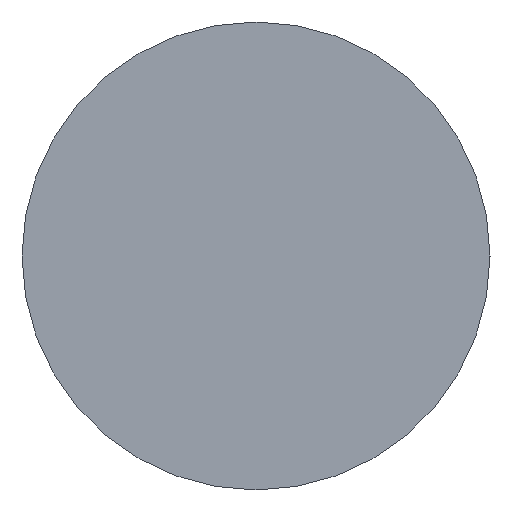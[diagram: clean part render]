
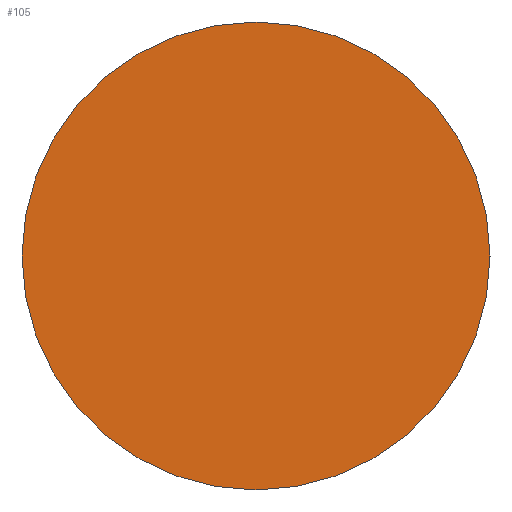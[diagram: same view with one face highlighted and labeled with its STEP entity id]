
A CAD part, left-side view. The second image highlights one B-rep face of the part: STEP entity #105.
In plain terms, the highlighted planar face has unit normal (-1, 0, 0).
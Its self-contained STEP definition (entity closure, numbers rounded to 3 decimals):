
#22 = VERTEX_POINT('',#23);
#23 = CARTESIAN_POINT('',(-44.,61.5,259.));
#32 = CYLINDRICAL_SURFACE('',#33,6.5);
#33 = AXIS2_PLACEMENT_3D('',#34,#35,#36);
#34 = CARTESIAN_POINT('',(-44.,68.,259.));
#35 = DIRECTION('',(-1.,-0.,-0.));
#36 = DIRECTION('',(0.,-1.,0.));
#79 = EDGE_CURVE('',#22,#22,#80,.T.);
#80 = SURFACE_CURVE('',#81,(#86,#93),.PCURVE_S1.);
#81 = CIRCLE('',#82,6.5);
#82 = AXIS2_PLACEMENT_3D('',#83,#84,#85);
#83 = CARTESIAN_POINT('',(-44.,68.,259.));
#84 = DIRECTION('',(1.,0.,0.));
#85 = DIRECTION('',(0.,-1.,0.));
#86 = PCURVE('',#32,#87);
#87 = DEFINITIONAL_REPRESENTATION('',(#88),#92);
#88 = LINE('',#89,#90);
#89 = CARTESIAN_POINT('',(-0.,0.));
#90 = VECTOR('',#91,1.);
#91 = DIRECTION('',(-1.,0.));
#92 = ( GEOMETRIC_REPRESENTATION_CONTEXT(2) 
PARAMETRIC_REPRESENTATION_CONTEXT() REPRESENTATION_CONTEXT('2D SPACE',''
  ) );
#93 = PCURVE('',#94,#99);
#94 = PLANE('',#95);
#95 = AXIS2_PLACEMENT_3D('',#96,#97,#98);
#96 = CARTESIAN_POINT('',(-44.,68.,259.));
#97 = DIRECTION('',(1.,0.,0.));
#98 = DIRECTION('',(-0.,0.,1.));
#99 = DEFINITIONAL_REPRESENTATION('',(#100),#104);
#100 = CIRCLE('',#101,6.5);
#101 = AXIS2_PLACEMENT_2D('',#102,#103);
#102 = CARTESIAN_POINT('',(0.,0.));
#103 = DIRECTION('',(0.,1.));
#104 = ( GEOMETRIC_REPRESENTATION_CONTEXT(2) 
PARAMETRIC_REPRESENTATION_CONTEXT() REPRESENTATION_CONTEXT('2D SPACE',''
  ) );
#105 = ADVANCED_FACE('',(#106),#94,.F.);
#106 = FACE_BOUND('',#107,.F.);
#107 = EDGE_LOOP('',(#108));
#108 = ORIENTED_EDGE('',*,*,#79,.T.);
